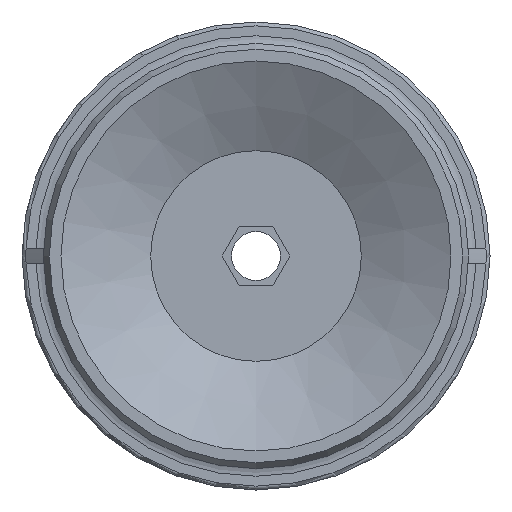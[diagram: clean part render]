
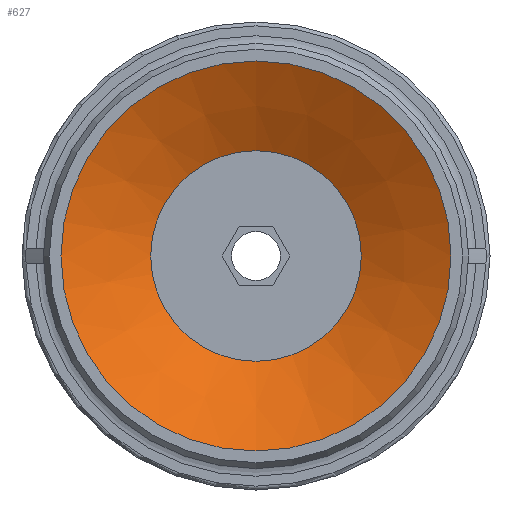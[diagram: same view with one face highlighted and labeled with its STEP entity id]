
A CAD part, front view. The second image highlights one B-rep face of the part: STEP entity #627.
In plain terms, the highlighted conical face has half-angle 61.631 degrees and reference radius 5.4 mm.
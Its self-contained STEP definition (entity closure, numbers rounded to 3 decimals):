
#627=ADVANCED_FACE('',(#928,#929),#930,.F.);
#928=FACE_BOUND('',#1261,.T.);
#929=FACE_OUTER_BOUND('',#1262,.T.);
#930=CONICAL_SURFACE('',#1263,5.4,1.076);
#1261=EDGE_LOOP('',(#2072));
#1262=EDGE_LOOP('',(#2073));
#1263=AXIS2_PLACEMENT_3D('',#2074,#2075,#2076);
#2072=ORIENTED_EDGE('',*,*,#2369,.F.);
#2073=ORIENTED_EDGE('',*,*,#2406,.T.);
#2074=CARTESIAN_POINT('',(0.0,2.484,0.0));
#2075=DIRECTION('',(-0.0,-1.0,0.));
#2076=DIRECTION('',(0.0,0.,-1.0));
#2369=EDGE_CURVE('',#2728,#2728,#2729,.T.);
#2406=EDGE_CURVE('',#2792,#2792,#2793,.T.);
#2728=VERTEX_POINT('',#3528);
#2729=CIRCLE('',#3529,5.4);
#2792=VERTEX_POINT('',#3604);
#2793=CIRCLE('',#3605,10.0);
#3528=CARTESIAN_POINT('',(0.0,2.484,-5.4));
#3529=AXIS2_PLACEMENT_3D('',#3943,#3944,#3945);
#3604=CARTESIAN_POINT('',(0.0,0.,-10.0));
#3605=AXIS2_PLACEMENT_3D('',#4030,#4031,#4032);
#3943=CARTESIAN_POINT('',(0.0,2.484,0.0));
#3944=DIRECTION('',(0.0,-1.0,0.));
#3945=DIRECTION('',(0.0,0.,-1.0));
#4030=CARTESIAN_POINT('',(0.0,0.0,0.0));
#4031=DIRECTION('',(0.0,-1.0,0.));
#4032=DIRECTION('',(0.0,0.,-1.0));
